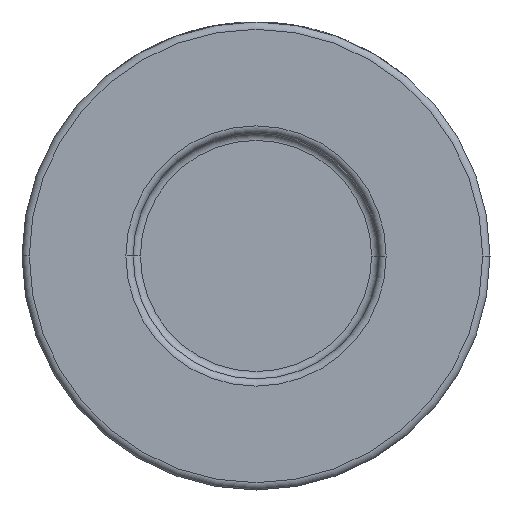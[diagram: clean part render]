
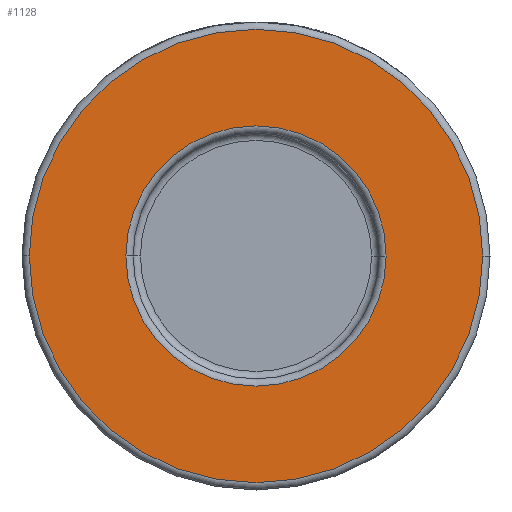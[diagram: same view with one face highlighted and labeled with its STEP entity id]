
A CAD part, front view. The second image highlights one B-rep face of the part: STEP entity #1128.
In plain terms, the highlighted planar face has unit normal (0, -1, 0).
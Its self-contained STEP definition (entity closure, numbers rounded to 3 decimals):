
#55 = DIRECTION ( 'NONE',  ( 1., 0., 0. ) ) ;
#159 = CARTESIAN_POINT ( 'NONE',  ( 0., -22., 0. ) ) ;
#168 = ORIENTED_EDGE ( 'NONE', *, *, #239, .T. ) ;
#171 = CIRCLE ( 'NONE', #3838, 31. ) ;
#239 = EDGE_CURVE ( 'NONE', #1503, #2611, #1958, .T. ) ;
#281 = CARTESIAN_POINT ( 'NONE',  ( 32., -22., 0. ) ) ;
#387 = VERTEX_POINT ( 'NONE', #1995 ) ;
#411 = EDGE_CURVE ( 'NONE', #2611, #1503, #560, .T. ) ;
#560 = CIRCLE ( 'NONE', #4303, 17.8 ) ;
#596 = CARTESIAN_POINT ( 'NONE',  ( -17.8, -22., 0. ) ) ;
#659 = EDGE_LOOP ( 'NONE', ( #4082, #168 ) ) ;
#665 = FACE_BOUND ( 'NONE', #659, .T. ) ;
#993 = CARTESIAN_POINT ( 'NONE',  ( 0., -22., 0. ) ) ;
#1104 = AXIS2_PLACEMENT_3D ( 'NONE', #159, #1563, #1587 ) ;
#1128 = ADVANCED_FACE ( 'NONE', ( #665, #3425 ), #2753, .T. ) ;
#1305 = CARTESIAN_POINT ( 'NONE',  ( 0., -22., 0. ) ) ;
#1430 = ORIENTED_EDGE ( 'NONE', *, *, #1651, .T. ) ;
#1503 = VERTEX_POINT ( 'NONE', #596 ) ;
#1563 = DIRECTION ( 'NONE',  ( 0., -1., 0. ) ) ;
#1582 = CARTESIAN_POINT ( 'NONE',  ( 31., -22., 0. ) ) ;
#1587 = DIRECTION ( 'NONE',  ( 1., 0., 0. ) ) ;
#1651 = EDGE_CURVE ( 'NONE', #387, #4416, #3080, .T. ) ;
#1733 = EDGE_LOOP ( 'NONE', ( #2556, #1430 ) ) ;
#1958 = CIRCLE ( 'NONE', #4379, 17.8 ) ;
#1995 = CARTESIAN_POINT ( 'NONE',  ( -31., -22., 0. ) ) ;
#2473 = DIRECTION ( 'NONE',  ( 0., 1., 0. ) ) ;
#2556 = ORIENTED_EDGE ( 'NONE', *, *, #4149, .T. ) ;
#2572 = AXIS2_PLACEMENT_3D ( 'NONE', #281, #4118, #4143 ) ;
#2611 = VERTEX_POINT ( 'NONE', #3752 ) ;
#2753 = PLANE ( 'NONE',  #2572 ) ;
#3080 = CIRCLE ( 'NONE', #1104, 31. ) ;
#3424 = DIRECTION ( 'NONE',  ( 1., 0., 0. ) ) ;
#3425 = FACE_OUTER_BOUND ( 'NONE', #1733, .T. ) ;
#3752 = CARTESIAN_POINT ( 'NONE',  ( 17.8, -22., 0. ) ) ;
#3759 = DIRECTION ( 'NONE',  ( 1., 0., 0. ) ) ;
#3838 = AXIS2_PLACEMENT_3D ( 'NONE', #993, #4485, #3424 ) ;
#3940 = CARTESIAN_POINT ( 'NONE',  ( 0., -22., 0. ) ) ;
#4082 = ORIENTED_EDGE ( 'NONE', *, *, #411, .T. ) ;
#4118 = DIRECTION ( 'NONE',  ( 0., -1., 0. ) ) ;
#4143 = DIRECTION ( 'NONE',  ( 1., 0., 0. ) ) ;
#4149 = EDGE_CURVE ( 'NONE', #4416, #387, #171, .T. ) ;
#4303 = AXIS2_PLACEMENT_3D ( 'NONE', #1305, #4439, #3759 ) ;
#4379 = AXIS2_PLACEMENT_3D ( 'NONE', #3940, #2473, #55 ) ;
#4416 = VERTEX_POINT ( 'NONE', #1582 ) ;
#4439 = DIRECTION ( 'NONE',  ( 0., 1., 0. ) ) ;
#4485 = DIRECTION ( 'NONE',  ( 0., -1., 0. ) ) ;
